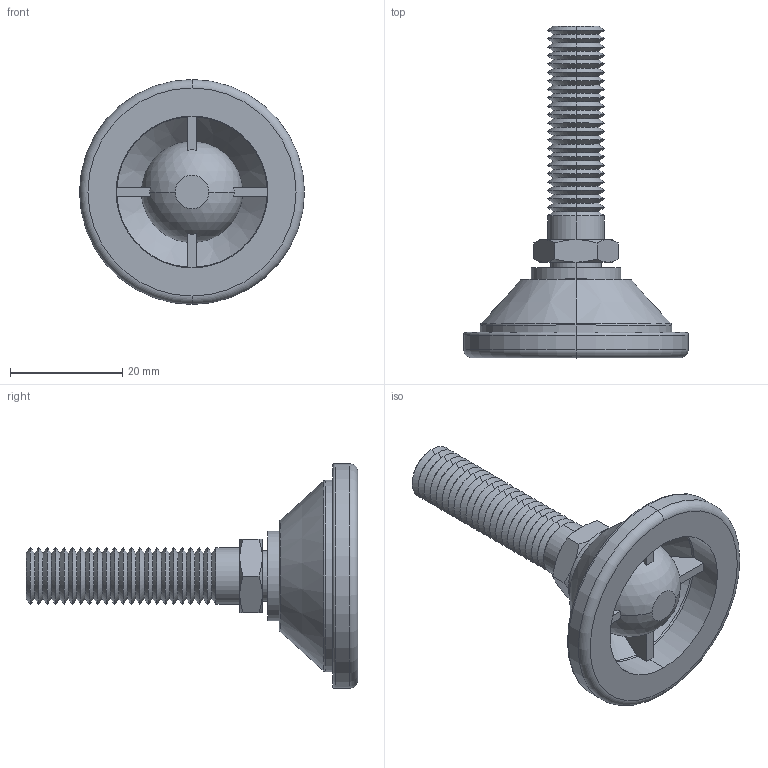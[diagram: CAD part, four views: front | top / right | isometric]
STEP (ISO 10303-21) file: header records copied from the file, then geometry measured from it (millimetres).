
FILE_DESCRIPTION (( 'STEP AP203' ), '1' );
FILE_NAME ('Default.step', '2016-09-22T07:36:06', ( 'User' ), ( '' ), 'SwSTEP 2.0', 'SolidWorks 2009', '' );
FILE_SCHEMA (( 'CONFIG_CONTROL_DESIGN' ));
Length unit declared in the file: millimetre
Products named in the file (3): Part1; Part2; Default
Assembly tree (2 placements, depth 2):
  Default
    Part2
    Part1
Bounding box: 40 x 59 x 40 mm (x, y, z)
Volume: 11780.6 mm3; surface area: 7818.2 mm2
Topology: 2 solids, 2 shells, 168 faces, 372 edges, 210 vertices
Faces by surface type: cone 110, plane 26, cylinder 14, torus 12, sphere 6
Entity records: 4937 total; most frequent: CARTESIAN_POINT 941, DIRECTION 862, ORIENTED_EDGE 726, AXIS2_PLACEMENT_3D 366, EDGE_CURVE 363, VERTEX_POINT 205, CIRCLE 193, EDGE_LOOP 174
